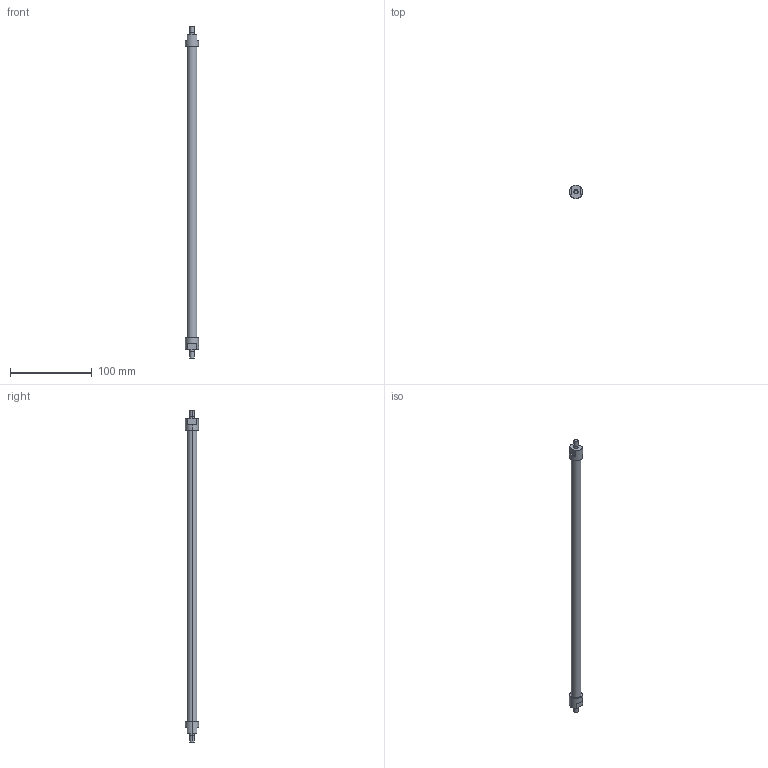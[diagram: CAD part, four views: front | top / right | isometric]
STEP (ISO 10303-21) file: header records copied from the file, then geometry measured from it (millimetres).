
FILE_DESCRIPTION(('STEP AP214'),'1');
FILE_NAME('ETT-R025N395.stp','2015-02-04T08:20:39',(' '),(' '),'Spatial InterOp 3D',' ',' ');
FILE_SCHEMA(('automotive_design'));
Length unit declared in the file: metre
Products named in the file (3): 1; 2; 3
Bounding box: 16 x 16 x 406 mm (x, y, z)
Volume: 46223 mm3; surface area: 16009.9 mm2
Topology: 1 solids, 7 shells, 30 faces, 81 edges, 63 vertices
Faces by surface type: plane 16, cylinder 14
Entity records: 1295 total; most frequent: DIRECTION 194, CARTESIAN_POINT 177, ORIENTED_EDGE 138, EDGE_CURVE 81, AXIS2_PLACEMENT_3D 80, VERTEX_POINT 63, CIRCLE 47, EDGE_LOOP 36
